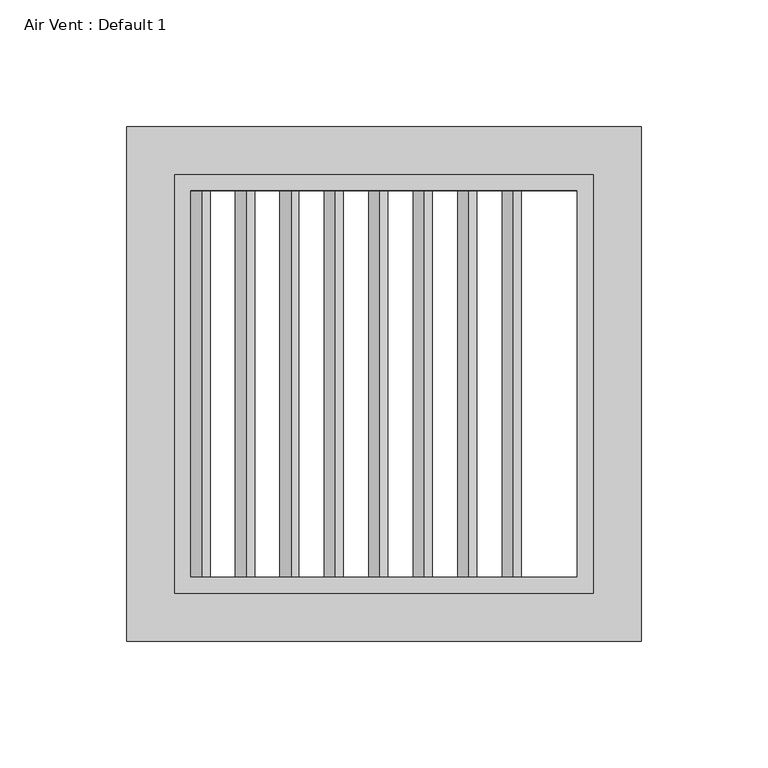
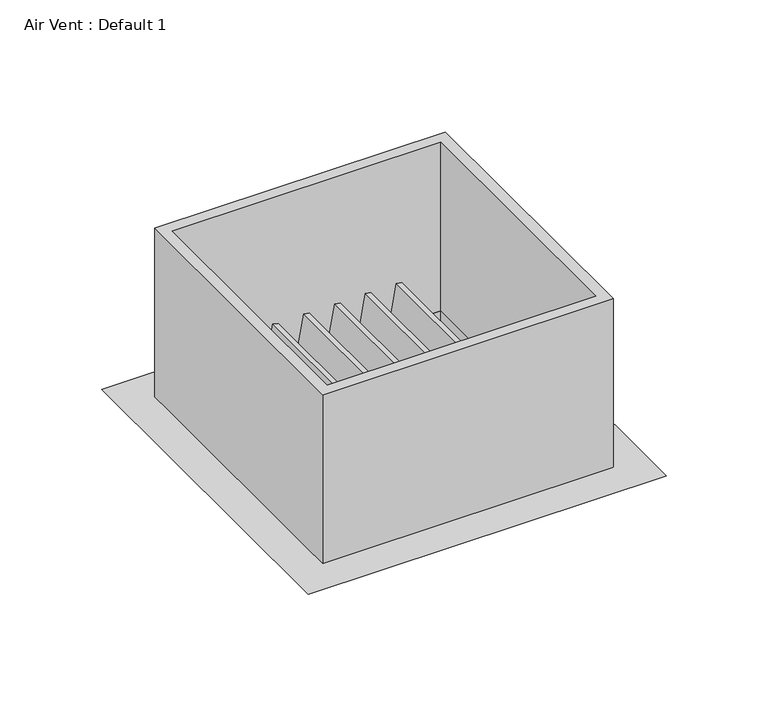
"""IFC4 building model written with IfcOpenShell, lengths in millimetres: proxy geometry, Air Vent : Default 1."""

from ifc_helpers import new_model, si_unit, frame, origin, place, context, project, spatial, polyline, outline, extrude, faceted_brep, source, transform, mapped, element, save


def air_vent_default_1_1334f17f(model_context):
    return source(origin(), model_context, "Body", "SolidModel", [
        extrude(outline(polyline([(0.0, -3.175), (0.0, 0.0), (152.4, 0.0), (152.4, -3.175), (0.0, -3.175)])), frame((-58.6560863, -76.2, 2438.951333), z_axis=(0.1736481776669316, 0.0, 0.9848077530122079), x_axis=(0.0, 1.0, 0.0)), (0.0, 0.0, 1.0), 25.4),
        extrude(outline(polyline([(0.0, -3.1750001), (0.0, 0.0), (152.4, 0.0), (152.4, -3.1750001), (0.0, -3.1750001)])), frame((-41.1121727, -76.2, 2438.951333), z_axis=(0.1736481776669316, 0.0, 0.9848077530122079), x_axis=(0.0, 1.0, 0.0)), (0.0, 0.0, 1.0), 25.4),
        extrude(outline(polyline([(0.0, -3.175), (0.0, 0.0), (152.4, 0.0), (152.4, -3.175), (0.0, -3.175)])), frame((-23.568259, -76.2, 2438.951333), z_axis=(0.1736481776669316, 0.0, 0.9848077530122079), x_axis=(0.0, 1.0, 0.0)), (0.0, 0.0, 1.0), 25.4),
        extrude(outline(polyline([(0.0, -3.175), (0.0, 0.0), (152.4, 0.0), (152.4, -3.175), (0.0, -3.175)])), frame((-6.0243453, -76.2, 2438.951333), z_axis=(0.1736481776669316, 0.0, 0.9848077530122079), x_axis=(0.0, 1.0, 0.0)), (0.0, 0.0, 1.0), 25.4),
        extrude(outline(polyline([(0.0, -3.175), (0.0, 0.0), (152.4, 0.0), (152.4, -3.175), (0.0, -3.175)])), frame((11.5195684, -76.2, 2438.951333), z_axis=(0.1736481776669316, 0.0, 0.9848077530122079), x_axis=(0.0, 1.0, 0.0)), (0.0, 0.0, 1.0), 25.4),
        extrude(outline(polyline([(0.0, -3.175), (0.0, 0.0), (152.4, 0.0), (152.4, -3.175), (0.0, -3.175)])), frame((29.063482, -76.2, 2438.951333), z_axis=(0.1736481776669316, 0.0, 0.9848077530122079), x_axis=(0.0, 1.0, 0.0)), (0.0, 0.0, 1.0), 25.4),
        extrude(outline(polyline([(0.0, -3.175), (0.0, 0.0), (152.4, 0.0), (152.4, -3.175), (0.0, -3.175)])), frame((46.6073957, -76.2, 2438.951333), z_axis=(0.1736481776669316, 0.0, 0.9848077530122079), x_axis=(0.0, 1.0, 0.0)), (0.0, 0.0, 1.0), 25.4),
        extrude(outline(polyline([(0.0, -3.175), (0.0, 0.0), (152.4, 0.0), (152.4, -3.175), (0.0, -3.175)])), frame((-76.2, -76.2, 2438.951333), z_axis=(0.1736481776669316, 0.0, 0.9848077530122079), x_axis=(0.0, 1.0, 0.0)), (0.0, 0.0, 1.0), 25.4),
        faceted_brep([(76.2, 76.2, 2438.4), (76.2, 76.2, 2432.05), (76.2, -76.2, 2432.05), (76.2, -76.2, 2438.4), (-76.2, -76.2, 2432.05), (-76.2, -76.2, 2438.4), (-76.2, 76.2, 2432.05), (-76.2, 76.2, 2438.4), (88.9, -88.9, 2432.05), (-88.9, -88.9, 2432.05), (-88.9, 88.9, 2432.05), (88.9, 88.9, 2432.05), (101.6, 101.6, 2438.4), (-101.6, 101.6, 2438.4), (-101.6, -101.6, 2438.4), (101.6, -101.6, 2438.4)], [[[0, 1, 2, 3]], [[3, 2, 4, 5]], [[5, 4, 6, 7]], [[8, 9, 10, 11], [1, 6, 4, 2]], [[12, 13, 14, 15], [3, 5, 7, 0]], [[7, 6, 1, 0]], [[11, 12, 15, 8]], [[8, 15, 14, 9]], [[9, 14, 13, 10]], [[10, 13, 12, 11]]]),
        extrude(outline(polyline([(82.55, 82.55), (82.55, -82.55), (-82.55, -82.55), (-82.55, 82.55), (82.55, 82.55)]), holes=[polyline([(76.2, 76.2), (-76.2, 76.2), (-76.2, -76.2), (76.2, -76.2), (76.2, 76.2)])]), frame((0.0, 0.0, 2438.4), z_axis=(0.0, 0.0, 1.0), x_axis=(1.0, 0.0, 0.0)), (0.0, 0.0, 1.0), 101.6),
    ])


if __name__ == "__main__":
    model = new_model("IFC4")
    model_context = context("Model", 3, world=origin())
    ifc_project = project(units=[si_unit("LENGTHUNIT", "METRE", prefix="MILLI")], contexts=[model_context])
    site = spatial("IfcSite", under=ifc_project)
    building = spatial("IfcBuilding", under=site)
    placement = place(None, origin())
    air_vent_default_1_shape = air_vent_default_1_1334f17f(model_context)
    element("IfcBuildingElementProxy", 1, Name="Air Vent : Default 1", ObjectType="Air Vent : Default 1", at=placement, inside=building, context=model_context, shape_type="MappedRepresentation", body=[
        mapped(air_vent_default_1_shape, transform((0.0, 0.0, 0.0), x_axis=(1.0, 0.0, 0.0), y_axis=(0.0, 1.0, 0.0), z_axis=(0.0, 0.0, 1.0))),
    ])
    save(model, "model.ifc")
